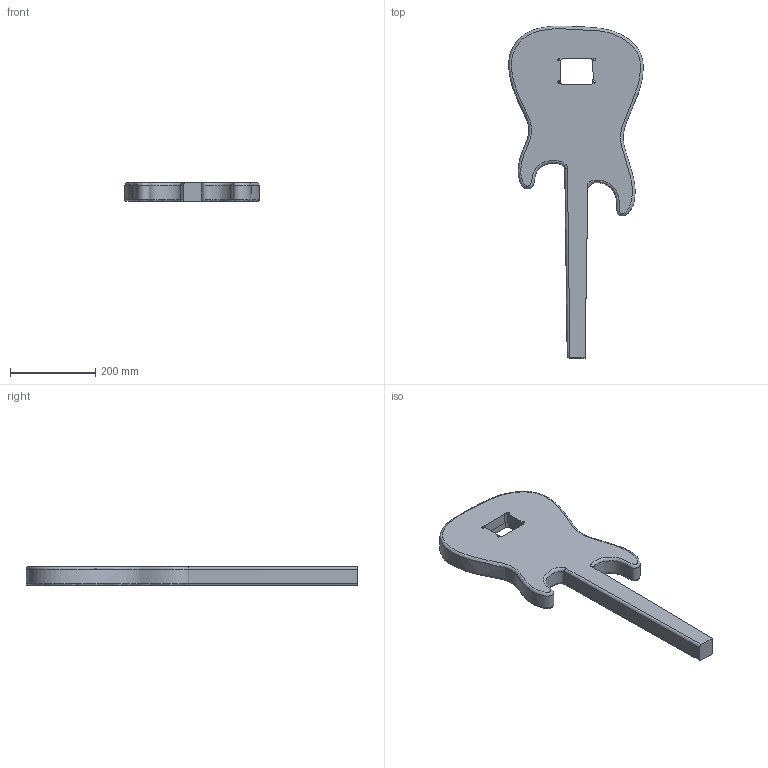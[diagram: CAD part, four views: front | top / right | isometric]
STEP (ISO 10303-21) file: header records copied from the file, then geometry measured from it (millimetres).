
FILE_DESCRIPTION(/* description */ (''),/* implementation_level */ '2;1');
FILE_NAME(/* name */ 'Evertune__F7_Route_STEP__v2025e05__e001.step',/* time_stamp */ '2025-05-17T10:58:51-04:00',/* author */ (''),/* organization */ (''),/* preprocessor_version */ 'ST-DEVELOPER v20.1',/* originating_system */ 'Autodesk Translation Framework v14.4.0.0',/* authorisation */ '');
FILE_SCHEMA (('AUTOMOTIVE_DESIGN { 1 0 10303 214 3 1 1 }'));
Length unit declared in the file: millimetre
Products named in the file (1): P16_BODY_STRAT_7
Bounding box: 315.21 x 779.13 x 44.45 mm (x, y, z)
Volume: 5631369.3 mm3; surface area: 390369.7 mm2
Topology: 1 solids, 1 shells, 71 faces, 185 edges, 122 vertices
Faces by surface type: plane 36, cylinder 30, bspline 3, cone 2
Full cylindrical faces by diameter (mm): 2.032 x6, 5.08 x4
Entity records: 15470 total; most frequent: CARTESIAN_POINT 13629, DIRECTION 377, ORIENTED_EDGE 370, EDGE_CURVE 185, AXIS2_PLACEMENT_3D 131, VERTEX_POINT 122, LINE 115, VECTOR 115
